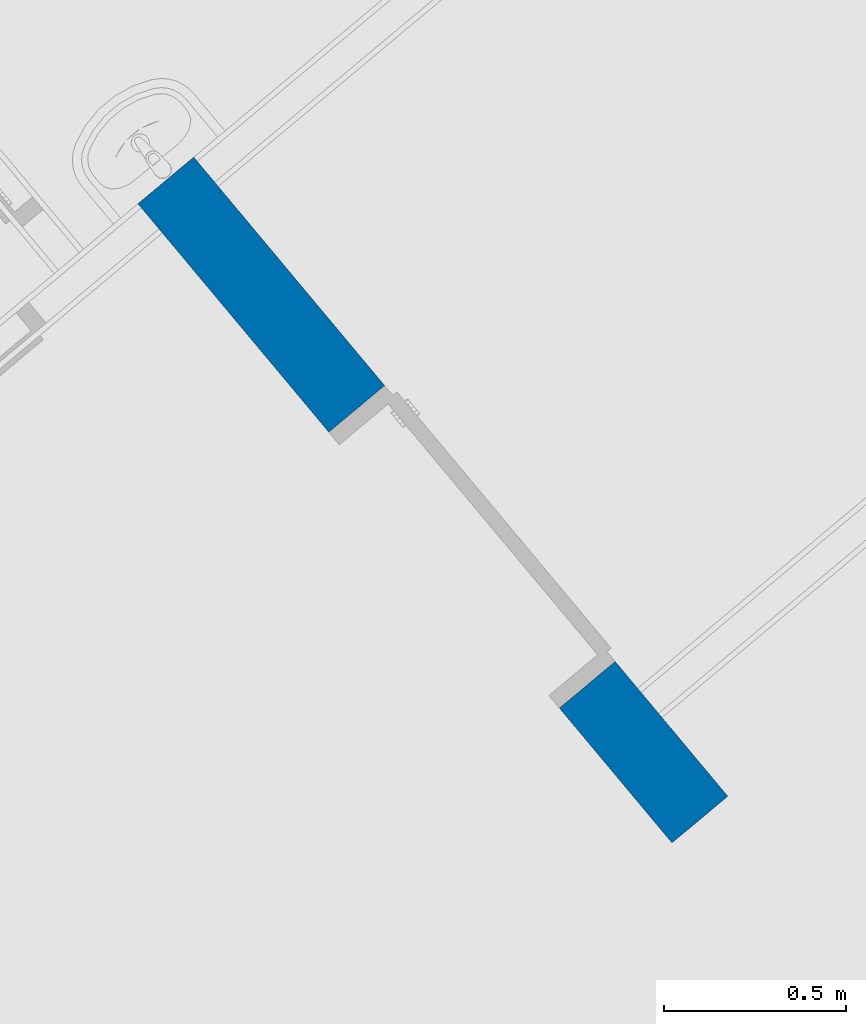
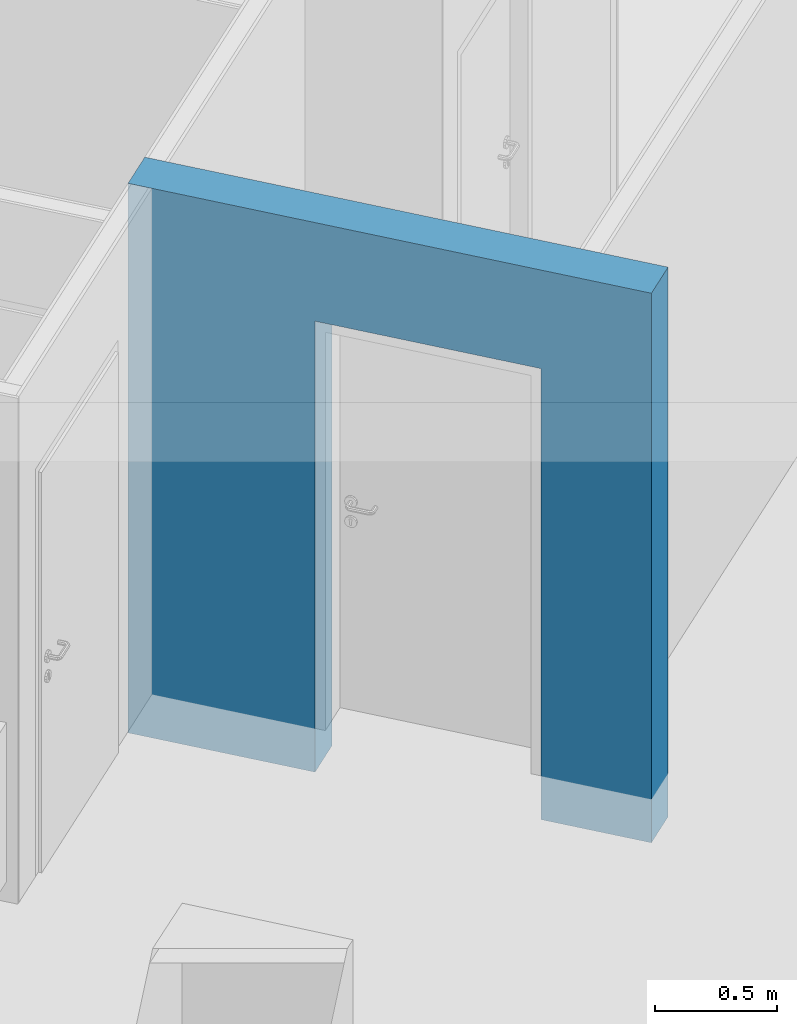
# One storey, part 1 of 61: 1 wall, 1 opening.
"""IFC4 building model written with IfcOpenShell, lengths in metres."""

import ifcopenshell
import ifcopenshell.guid

model = None  # the IFC model being written
_history = None  # IfcOwnerHistory: only IFC2X3 demands one
_inside = {}  # id of a spatial element -> (the spatial element, [elements in it])
_under = {}  # id of a project, library or spatial element -> (it, [spatial elements below it])
_declared = {}  # id of a project -> (the project, [libraries it declares])
_typed = {}  # id of a type object -> (the type object, [elements of that type])
_made_of = {}  # id of a material, layer set ... -> (it, [elements and type objects made of it])


def new_model(schema):
    """Start an empty IFC model of exactly this schema.

    Asked for "IFC4X3", IfcOpenShell would pick the latest addendum, in which some entities
    have other attributes; the version numbers below select the first issue.
    IFC2X3 requires an IfcOwnerHistory on every rooted entity: one is made here for all.
    """
    global model, _history
    if schema == "IFC4X3":
        model = ifcopenshell.file(schema_version=(4, 3, 0, 0))
    else:
        model = ifcopenshell.file(schema=schema)
    _inside.clear()
    _under.clear()
    _declared.clear()
    _typed.clear()
    _made_of.clear()
    _history = None
    if model.schema == "IFC2X3":
        org = make("IfcOrganization", Name="unknown")
        user = make(
            "IfcPersonAndOrganization",
            ThePerson=make("IfcPerson", FamilyName="unknown"),
            TheOrganization=org,
        )
        app = make(
            "IfcApplication",
            ApplicationDeveloper=org,
            Version="unknown",
            ApplicationFullName="unknown",
            ApplicationIdentifier="unknown",
        )
        _history = make(
            "IfcOwnerHistory",
            OwningUser=user,
            OwningApplication=app,
            ChangeAction="ADDED",
            CreationDate=0,
        )
    return model


def make(cls, **values):
    """One entity of the class cls with the attributes given. An attribute that is None is left unset."""
    return model.create_entity(
        cls, **{name: value for name, value in values.items() if value is not None}
    )


def entity(cls, *values):
    """Any entity or typed value of the class cls, its attributes in the order of the schema. None: left unset."""
    e = model.create_entity(cls)
    for i, value in enumerate(values):
        if value is not None:
            e[i] = value
    return e


def rooted(cls, **values):
    """An entity with a GlobalId (a new one), such as an element, a storey or a relation."""
    return make(cls, GlobalId=ifcopenshell.guid.new(), OwnerHistory=_history, **values)


def si_unit(unit_type, name, prefix=None):
    """IfcSIUnit, for example si_unit("LENGTHUNIT", "METRE", prefix="MILLI")."""
    return make("IfcSIUnit", UnitType=unit_type, Prefix=prefix, Name=name)


def converted_unit(unit_type, name, factor, base, dimensions=None, offset=None):
    """IfcConversionBasedUnit, such as the inch: factor (a typed value) times the base unit."""
    return make(
        "IfcConversionBasedUnit"
        if offset is None
        else "IfcConversionBasedUnitWithOffset",
        ConversionOffset=offset,
        Dimensions=None
        if dimensions is None
        else entity("IfcDimensionalExponents", *dimensions),
        UnitType=unit_type,
        Name=name,
        ConversionFactor=make(
            "IfcMeasureWithUnit", ValueComponent=factor, UnitComponent=base
        ),
    )


def derived_unit(unit_type, elements):
    """IfcDerivedUnit: a product of units, each with its exponent."""
    return make(
        "IfcDerivedUnit",
        Elements=[
            make("IfcDerivedUnitElement", Unit=unit, Exponent=power)
            for unit, power in elements
        ],
        UnitType=unit_type,
    )


def assignment(units):
    """IfcUnitAssignment: the units of a project."""
    return None if units is None else make("IfcUnitAssignment", Units=units)


def point(xyz):
    """IfcCartesianPoint."""
    return None if xyz is None else make("IfcCartesianPoint", Coordinates=xyz)


def direction(xyz):
    """IfcDirection."""
    return None if xyz is None else make("IfcDirection", DirectionRatios=xyz)


def frame(location, z_axis=None, x_axis=None):
    """IfcAxis2Placement3D, a coordinate frame: its origin and axes. An axis left out is left unset."""
    return make(
        "IfcAxis2Placement3D",
        Location=point(location),
        Axis=direction(z_axis),
        RefDirection=direction(x_axis),
    )


def origin_with_axes():
    """The frame at (0, 0, 0) with the z axis (0, 0, 1) and the x axis (1, 0, 0) written out."""
    return frame((0.0, 0.0, 0.0), z_axis=(0.0, 0.0, 1.0), x_axis=(1.0, 0.0, 0.0))


def place(relative_to, where):
    """IfcLocalPlacement: puts the frame where relative to a parent placement (None: the world)."""
    return make(
        "IfcLocalPlacement", PlacementRelTo=relative_to, RelativePlacement=where
    )


def context(
    kind, dimensions, precision=None, world=None, true_north=None, identifier=None
):
    """IfcGeometricRepresentationContext, for example the 3D "Model" context."""
    return make(
        "IfcGeometricRepresentationContext",
        ContextIdentifier=identifier,
        ContextType=kind,
        CoordinateSpaceDimension=dimensions,
        Precision=precision,
        WorldCoordinateSystem=world,
        TrueNorth=true_north,
    )


def subcontext(parent, identifier, kind, view, scale=None):
    """IfcGeometricRepresentationSubContext, for example "Body" below "Model"."""
    return make(
        "IfcGeometricRepresentationSubContext",
        ContextIdentifier=identifier,
        ContextType=kind,
        ParentContext=parent,
        TargetScale=scale,
        TargetView=view,
    )


def project(units=None, contexts=None):
    """IfcProject with its units and contexts."""
    return rooted(
        "IfcProject",
        Name="project",
        RepresentationContexts=contexts,
        UnitsInContext=assignment(units),
    )


def spatial(cls, under=None, at=None, **own):
    """A site, building, storey or space (cls), placed at a placement, below another one or the project."""
    s = rooted(cls, ObjectPlacement=at, **own)
    if under is not None:
        _under.setdefault(under.id(), (under, []))[1].append(s)
    return s


def point_list(points):
    """IfcCartesianPointList2D or 3D."""
    cls = (
        "IfcCartesianPointList2D" if len(points[0]) == 2 else "IfcCartesianPointList3D"
    )
    return make(cls, CoordList=points)


def polygons(points, faces, closed=None, point_numbers=None):
    """IfcPolygonalFaceSet: a face is its outer loop, then its inner loops; points numbered from 1."""
    made = []
    for loops in faces:
        if len(loops) == 1:
            made.append(make("IfcIndexedPolygonalFace", CoordIndex=loops[0]))
        else:
            made.append(
                make(
                    "IfcIndexedPolygonalFaceWithVoids",
                    CoordIndex=loops[0],
                    InnerCoordIndices=loops[1:],
                )
            )
    return make(
        "IfcPolygonalFaceSet",
        Coordinates=point_list(points),
        Closed=closed,
        Faces=made,
        PnIndex=point_numbers,
    )


def shape(context_of_items, identifier, shape_type, items):
    """IfcShapeRepresentation: the items that make up one representation, for example the "Body"."""
    return make(
        "IfcShapeRepresentation",
        ContextOfItems=context_of_items,
        RepresentationIdentifier=identifier,
        RepresentationType=shape_type,
        Items=items,
    )


def material(Name=None, Category=None):
    """IfcMaterial."""
    return make("IfcMaterial", Name=Name, Category=Category)


def made_of(thing, what):
    """Note that an element or type object is made of a material, layer set ...; save() writes the relation."""
    if what is not None:
        _made_of.setdefault(what.id(), (what, []))[1].append(thing)
    return thing


def type_object(cls, material=None, **own):
    """A type object (cls), such as IfcWallType, which elements share."""
    return made_of(rooted(cls, **own), material)


def element(
    cls,
    number,
    at=None,
    inside=None,
    cuts=None,
    type_object=None,
    material=None,
    context=None,
    identifier="Body",
    shape_type=None,
    held_by="IfcProductDefinitionShape",
    body=None,
    shapes=None,
    **own,
):
    """One element of the class cls, such as IfcWall. Its Tag is "e" and its number.

    at: its placement. inside: the storey or other place that contains it. cuts: it is an
    opening in that element (IfcRelVoidsElement). A single representation is given by context,
    identifier, shape_type and body (its items); several are given by shapes. held_by: the class
    of the entity that holds the representations. save() writes the other relations.
    """
    e = rooted(cls, Tag="e%d" % number, ObjectPlacement=at, **own)
    if body is not None:
        shapes = [shape(context, identifier, shape_type, body)]
    if shapes is not None:
        e.Representation = make(held_by, Representations=shapes)
    if inside is not None:
        _inside.setdefault(inside.id(), (inside, []))[1].append(e)
    if cuts is not None:
        rooted(
            "IfcRelVoidsElement", RelatingBuildingElement=cuts, RelatedOpeningElement=e
        )
    if type_object is not None:
        _typed.setdefault(type_object.id(), (type_object, []))[1].append(e)
    return made_of(e, material)


def aggregate(whole, parts):
    """IfcRelAggregates: a whole, such as a stair, and the parts it consists of."""
    return rooted("IfcRelAggregates", RelatingObject=whole, RelatedObjects=parts)


def save(model, path):
    """Write the relations noted so far, then the file.

    IfcRelAggregates (storeys below a building ...), IfcRelContainedInSpatialStructure (elements
    in a storey), IfcRelDefinesByType, IfcRelAssociatesMaterial and IfcRelDeclares: one each for
    every whole, place, type object, material and project.
    """
    for whole, parts in _under.values():
        aggregate(whole, parts)
    for where, things in _inside.values():
        rooted(
            "IfcRelContainedInSpatialStructure",
            RelatedElements=things,
            RelatingStructure=where,
        )
    for kind, things in _typed.values():
        rooted("IfcRelDefinesByType", RelatedObjects=things, RelatingType=kind)
    for what, things in _made_of.values():
        rooted("IfcRelAssociatesMaterial", RelatedObjects=things, RelatingMaterial=what)
    for by, libraries in _declared.values():
        rooted("IfcRelDeclares", RelatingContext=by, RelatedDefinitions=libraries)
    model.write(path)


model = new_model("IFC4")

# Units and contexts
model_context = context("Model", 3, precision=1e-05, world=origin_with_axes(), true_north=direction((0.0, 1.0)))
body_context = subcontext(model_context, "Body", "Model", "MODEL_VIEW")
ifc_project = project(units=[si_unit("LENGTHUNIT", "METRE"), si_unit("AREAUNIT", "SQUARE_METRE"), si_unit("VOLUMEUNIT", "CUBIC_METRE"), converted_unit("PLANEANGLEUNIT", "DEGREE", entity("IfcPlaneAngleMeasure", 0.0174532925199), si_unit("PLANEANGLEUNIT", "RADIAN"), dimensions=[0, 0, 0, 0, 0, 0, 0]), converted_unit("TIMEUNIT", "Year", entity("IfcTimeMeasure", 31556926.0), si_unit("TIMEUNIT", "SECOND"), dimensions=[0, 0, 1, 0, 0, 0, 0]), si_unit("MASSUNIT", "GRAM", prefix="KILO"), si_unit("THERMODYNAMICTEMPERATUREUNIT", "DEGREE_CELSIUS"), si_unit("LUMINOUSINTENSITYUNIT", "LUMEN"), si_unit("ENERGYUNIT", "JOULE", prefix="MEGA"), derived_unit("THERMALCONDUCTANCEUNIT", [(si_unit("POWERUNIT", "WATT"), 1), (si_unit("LENGTHUNIT", "METRE"), -1), (si_unit("THERMODYNAMICTEMPERATUREUNIT", "KELVIN"), -1)]), derived_unit("SPECIFICHEATCAPACITYUNIT", [(si_unit("ENERGYUNIT", "JOULE"), 1), (si_unit("MASSUNIT", "GRAM", prefix="KILO"), -1), (si_unit("THERMODYNAMICTEMPERATUREUNIT", "KELVIN"), -1)]), derived_unit("MASSDENSITYUNIT", [(si_unit("MASSUNIT", "GRAM", prefix="KILO"), 1), (si_unit("VOLUMEUNIT", "CUBIC_METRE"), -1)])], contexts=[model_context])

# Site, building, storey
site_placement = place(None, frame((-0.00153261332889, -0.00661245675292, 0.0), z_axis=(0.0, 0.0, 1.0), x_axis=(1.0, 0.0, 0.0)))
site = spatial("IfcSite", under=ifc_project, at=site_placement, Name="Gelände", CompositionType="ELEMENT")
building_placement = place(site_placement, origin_with_axes())
building = spatial("IfcBuilding", under=site, at=building_placement, Name="Gebäude", CompositionType="ELEMENT")
storey_placement = place(building_placement, frame((0.0, 0.0, 5.7), z_axis=(0.0, 0.0, 1.0), x_axis=(1.0, 0.0, 0.0)))
storey = spatial("IfcBuildingStorey", under=building, at=storey_placement, Name="DG1", CompositionType="ELEMENT", Elevation=5.7)

# Wall, opening
ifc_material = material(Name="Stahlbeton Wand")
wall_type = type_object("IfcWallType", Name="Stahlbeton Wand 200", PredefinedType="NOTDEFINED")
wall_placement = place(storey_placement, frame((0.771856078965, 16.1631018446, 0.0), z_axis=(0.0, 0.0, 1.0), x_axis=(-0.641209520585, 0.767365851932, 0.0)))
wall = element("IfcWall", 1, at=wall_placement, inside=storey, type_object=wall_type, material=ifc_material, Name="Wand-003", PredefinedType="NOTDEFINED", context=body_context, shape_type="Tessellation", body=[
    polygons([(1.47351340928, 0.0, 2.265), (1.47351340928, 5.04680901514e-08, 0.22), (1.47351333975, 5.04680901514e-08, 0.0), (2.29315960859, 0.0, 0.0), (2.29315960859, 0.0, 2.76), (0.0, 0.0, 2.76), (0.0, 0.0, 0.0), (0.483513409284, -2.14801154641e-09, 0.0), (0.483513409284, -2.14801154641e-09, 0.22), (0.483513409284, 0.0, 2.265), (1.47351340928, 0.2, 2.265), (1.47351340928, 0.2, 0.22), (1.47351334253, 0.2, 0.0), (2.29315960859, 0.2, 0.0), (2.29315960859, 0.2, 2.76), (0.0, 0.2, 2.76), (0.0, 0.2, 0.0), (0.483513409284, 0.2, 0.0), (0.483513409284, 0.2, 0.22), (0.483513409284, 0.2, 2.265)], [[[1, 2, 3, 4, 5, 6, 7, 8, 9, 10]], [[2, 1, 11, 12]], [[2, 12, 13, 3]], [[3, 13, 14, 4]], [[4, 14, 15, 5]], [[5, 15, 16, 6]], [[16, 17, 7, 6]], [[18, 8, 7, 17]], [[19, 9, 8, 18]], [[10, 9, 19, 20]], [[1, 10, 20, 11]], [[20, 19, 18, 17, 16, 15, 14, 13, 12, 11]]], closed=True),
])
opening_placement = place(wall_placement, frame((0.978513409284, 0.0, 0.22), z_axis=(0.0, 0.0, 1.0), x_axis=(1.0, 0.0, 0.0)))
element("IfcOpeningElement", 2, at=opening_placement, cuts=wall, Name="Tür-017", context=body_context, identifier="Reference", shape_type="Tessellation", body=[
    polygons([(0.495, 1.32933150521, 2.045), (0.495, 1.32933150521, -0.22), (-0.495, 1.32933150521, -0.22), (-0.495, 1.32933150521, 2.045), (0.495, -1.12933150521, 2.045), (0.495, -1.12933150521, -0.22), (-0.495, -1.12933150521, -0.22), (-0.495, -1.12933150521, 2.045)], [[[1, 2, 3, 4]], [[5, 6, 2, 1]], [[6, 7, 3, 2]], [[7, 8, 4, 3]], [[8, 5, 1, 4]], [[7, 6, 5, 8]]], closed=True),
])

save(model, "model.ifc")
